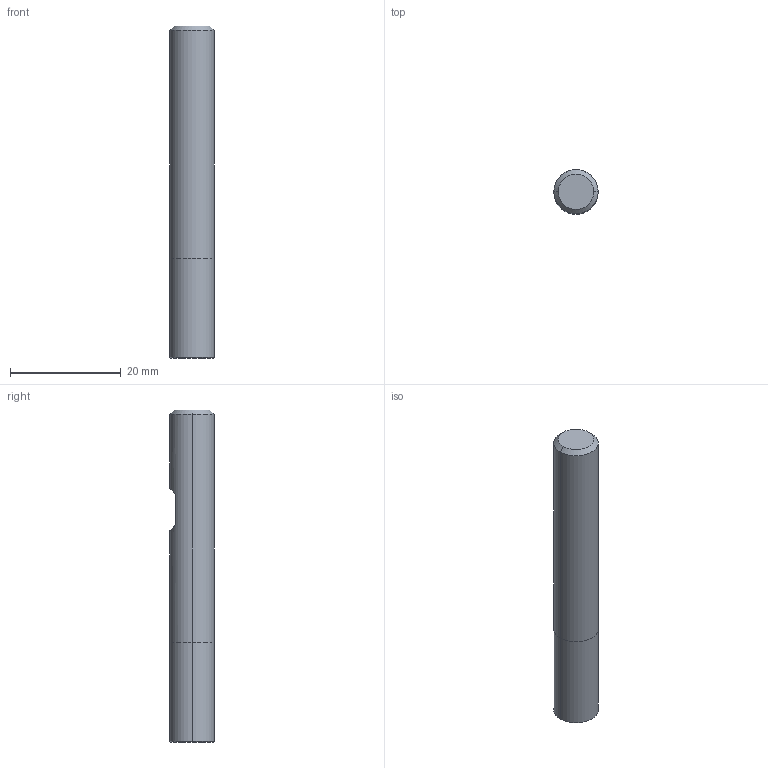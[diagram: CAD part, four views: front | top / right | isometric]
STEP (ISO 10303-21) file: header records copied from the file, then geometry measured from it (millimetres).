
FILE_DESCRIPTION (( 'STEP AP214' ), '1' );
FILE_NAME ('595.080.10_3D-model.step', '2022-02-18T22:31:06', ( '' ), ( '' ), 'SwSTEP 2.0', 'SolidWorks 2020', '' );
FILE_SCHEMA (( 'AUTOMOTIVE_DESIGN' ));
Length unit declared in the file: millimetre
Products named in the file (3): 595.080.10_3D-model; CUT-3D^Baugr131; NOCUT-3D^Baugr131
Assembly tree (2 placements, depth 2):
  595.080.10_3D-model
    CUT-3D^Baugr131
    NOCUT-3D^Baugr131
Bounding box: 8 x 8 x 60 mm (x, y, z)
Volume: 2981.7 mm3; surface area: 1694.8 mm2
Topology: 2 solids, 2 shells, 15 faces, 26 edges, 16 vertices
Faces by surface type: plane 7, cylinder 4, cone 4
Entity records: 482 total; most frequent: DIRECTION 82, CARTESIAN_POINT 71, ORIENTED_EDGE 52, AXIS2_PLACEMENT_3D 35, EDGE_CURVE 26, EDGE_LOOP 16, VERTEX_POINT 16, FACE_OUTER_BOUND 15
